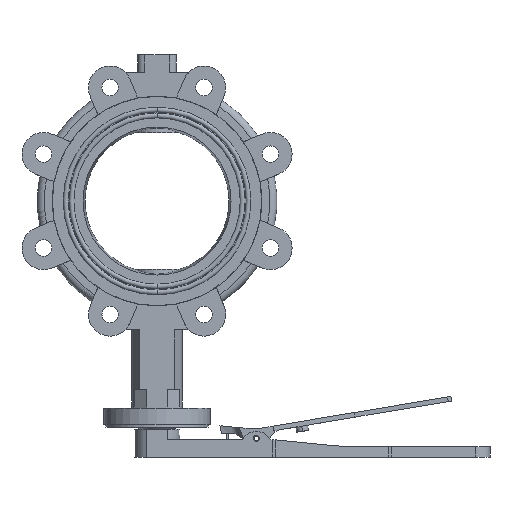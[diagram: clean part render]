
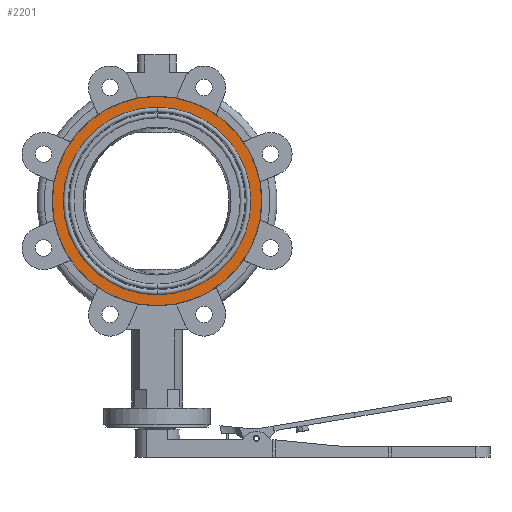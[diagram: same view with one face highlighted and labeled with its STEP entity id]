
A CAD part, front view. The second image highlights one B-rep face of the part: STEP entity #2201.
In plain terms, the highlighted planar face has unit normal (0, -1, 0).
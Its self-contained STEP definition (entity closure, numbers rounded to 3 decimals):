
#48 = CARTESIAN_POINT ( 'NONE',  ( 89.5, -29., 0. ) ) ;
#135 = ORIENTED_EDGE ( 'NONE', *, *, #9949, .T. ) ;
#243 = DIRECTION ( 'NONE',  ( 0., 1., 0. ) ) ;
#928 = EDGE_LOOP ( 'NONE', ( #7497, #135 ) ) ;
#1137 = FACE_BOUND ( 'NONE', #928, .T. ) ;
#1484 = VERTEX_POINT ( 'NONE', #4593 ) ;
#1579 = ORIENTED_EDGE ( 'NONE', *, *, #5754, .F. ) ;
#1855 = DIRECTION ( 'NONE',  ( -1., 0., 0. ) ) ;
#1869 = AXIS2_PLACEMENT_3D ( 'NONE', #4975, #10679, #2214 ) ;
#1984 = AXIS2_PLACEMENT_3D ( 'NONE', #11753, #243, #10815 ) ;
#2017 = DIRECTION ( 'NONE',  ( -1., 0., 0. ) ) ;
#2201 = ADVANCED_FACE ( 'NONE', ( #3039, #1137 ), #3978, .F. ) ;
#2214 = DIRECTION ( 'NONE',  ( -1., 0., 0. ) ) ;
#2663 = CARTESIAN_POINT ( 'NONE',  ( 80.2, -29., 0. ) ) ;
#3039 = FACE_OUTER_BOUND ( 'NONE', #5417, .T. ) ;
#3047 = ORIENTED_EDGE ( 'NONE', *, *, #6873, .F. ) ;
#3192 = AXIS2_PLACEMENT_3D ( 'NONE', #10079, #12022, #9143 ) ;
#3500 = AXIS2_PLACEMENT_3D ( 'NONE', #3807, #7822, #1855 ) ;
#3622 = VERTEX_POINT ( 'NONE', #2663 ) ;
#3807 = CARTESIAN_POINT ( 'NONE',  ( 0., -29., 0. ) ) ;
#3884 = CIRCLE ( 'NONE', #3500, 80.2 ) ;
#3978 = PLANE ( 'NONE',  #1869 ) ;
#4593 = CARTESIAN_POINT ( 'NONE',  ( -80.2, -29., 0. ) ) ;
#4975 = CARTESIAN_POINT ( 'NONE',  ( 0., -29., 0. ) ) ;
#5417 = EDGE_LOOP ( 'NONE', ( #1579, #3047 ) ) ;
#5588 = CARTESIAN_POINT ( 'NONE',  ( -89.5, -29., 0. ) ) ;
#5717 = VERTEX_POINT ( 'NONE', #48 ) ;
#5754 = EDGE_CURVE ( 'NONE', #9532, #5717, #6174, .T. ) ;
#5794 = CIRCLE ( 'NONE', #1984, 80.2 ) ;
#6174 = CIRCLE ( 'NONE', #6775, 89.5 ) ;
#6775 = AXIS2_PLACEMENT_3D ( 'NONE', #10551, #9673, #2017 ) ;
#6873 = EDGE_CURVE ( 'NONE', #5717, #9532, #11404, .T. ) ;
#7105 = EDGE_CURVE ( 'NONE', #3622, #1484, #5794, .T. ) ;
#7497 = ORIENTED_EDGE ( 'NONE', *, *, #7105, .T. ) ;
#7822 = DIRECTION ( 'NONE',  ( 0., 1., 0. ) ) ;
#9143 = DIRECTION ( 'NONE',  ( -1., 0., 0. ) ) ;
#9532 = VERTEX_POINT ( 'NONE', #5588 ) ;
#9673 = DIRECTION ( 'NONE',  ( 0., 1., 0. ) ) ;
#9949 = EDGE_CURVE ( 'NONE', #1484, #3622, #3884, .T. ) ;
#10079 = CARTESIAN_POINT ( 'NONE',  ( 0., -29., 0. ) ) ;
#10551 = CARTESIAN_POINT ( 'NONE',  ( 0., -29., 0. ) ) ;
#10679 = DIRECTION ( 'NONE',  ( 0., 1., 0. ) ) ;
#10815 = DIRECTION ( 'NONE',  ( -1., 0., 0. ) ) ;
#11404 = CIRCLE ( 'NONE', #3192, 89.5 ) ;
#11753 = CARTESIAN_POINT ( 'NONE',  ( 0., -29., 0. ) ) ;
#12022 = DIRECTION ( 'NONE',  ( 0., 1., 0. ) ) ;
